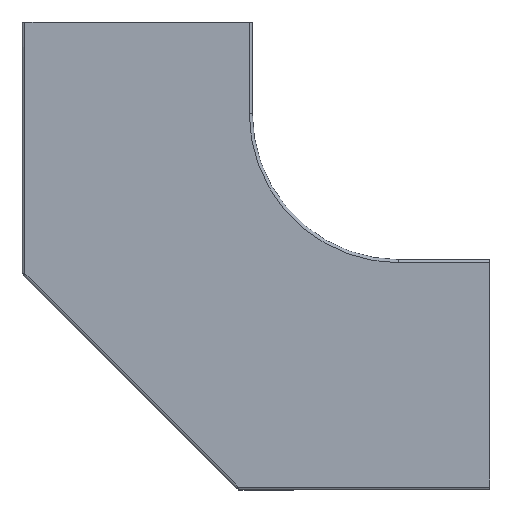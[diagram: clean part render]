
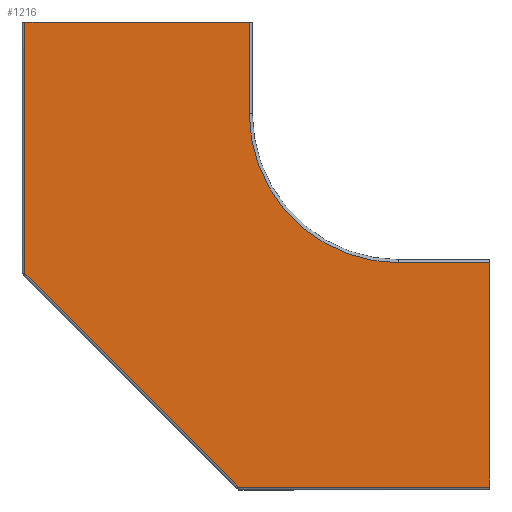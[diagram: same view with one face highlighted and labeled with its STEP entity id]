
A CAD part, front view. The second image highlights one B-rep face of the part: STEP entity #1216.
In plain terms, the highlighted planar face has unit normal (0, -1, 0).
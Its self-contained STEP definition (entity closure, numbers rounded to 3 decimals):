
#92 = LINE ( 'NONE', #914, #3162 ) ;
#125 = CARTESIAN_POINT ( 'NONE',  ( 143., 0., -311. ) ) ;
#265 = LINE ( 'NONE', #3554, #3762 ) ;
#394 = CARTESIAN_POINT ( 'NONE',  ( 250., 0., -161. ) ) ;
#589 = EDGE_CURVE ( 'NONE', #1027, #1272, #842, .T. ) ;
#600 = ORIENTED_EDGE ( 'NONE', *, *, #2892, .F. ) ;
#616 = DIRECTION ( 'NONE',  ( 0., -1., 0. ) ) ;
#736 = LINE ( 'NONE', #4009, #1308 ) ;
#749 = DIRECTION ( 'NONE',  ( 0., 0., -1. ) ) ;
#842 = LINE ( 'NONE', #2911, #5236 ) ;
#852 = LINE ( 'NONE', #2821, #4393 ) ;
#914 = CARTESIAN_POINT ( 'NONE',  ( 250., 0., -161. ) ) ;
#1027 = VERTEX_POINT ( 'NONE', #4639 ) ;
#1051 = CARTESIAN_POINT ( 'NONE',  ( 311., 0., -311. ) ) ;
#1079 = DIRECTION ( 'NONE',  ( 0., -1., 0. ) ) ;
#1173 = CIRCLE ( 'NONE', #1854, 100. ) ;
#1216 = ADVANCED_FACE ( 'NONE', ( #1516 ), #1565, .T. ) ;
#1272 = VERTEX_POINT ( 'NONE', #1051 ) ;
#1293 = DIRECTION ( 'NONE',  ( 0., 0., -1. ) ) ;
#1308 = VECTOR ( 'NONE', #2402, 1000. ) ;
#1401 = EDGE_CURVE ( 'NONE', #2865, #3107, #852, .T. ) ;
#1417 = AXIS2_PLACEMENT_3D ( 'NONE', #2678, #616, #3131 ) ;
#1516 = FACE_OUTER_BOUND ( 'NONE', #4044, .T. ) ;
#1565 = PLANE ( 'NONE',  #1417 ) ;
#1593 = CARTESIAN_POINT ( 'NONE',  ( 0., 0., -168. ) ) ;
#1678 = VECTOR ( 'NONE', #4772, 1000. ) ;
#1706 = CARTESIAN_POINT ( 'NONE',  ( 150., 0., 0. ) ) ;
#1854 = AXIS2_PLACEMENT_3D ( 'NONE', #3911, #1079, #4325 ) ;
#2101 = VERTEX_POINT ( 'NONE', #3946 ) ;
#2189 = EDGE_CURVE ( 'NONE', #3107, #5090, #1173, .T. ) ;
#2368 = CARTESIAN_POINT ( 'NONE',  ( 150., 0., -61. ) ) ;
#2402 = DIRECTION ( 'NONE',  ( 0., 0., 1. ) ) ;
#2434 = CARTESIAN_POINT ( 'NONE',  ( 143., 0., -311. ) ) ;
#2678 = CARTESIAN_POINT ( 'NONE',  ( 250., 0., -61. ) ) ;
#2687 = ORIENTED_EDGE ( 'NONE', *, *, #3857, .F. ) ;
#2821 = CARTESIAN_POINT ( 'NONE',  ( 150., 0., 0. ) ) ;
#2865 = VERTEX_POINT ( 'NONE', #1706 ) ;
#2892 = EDGE_CURVE ( 'NONE', #1272, #4741, #5023, .T. ) ;
#2905 = DIRECTION ( 'NONE',  ( -0.707, 0., 0.707 ) ) ;
#2911 = CARTESIAN_POINT ( 'NONE',  ( 311., 0., -161. ) ) ;
#3107 = VERTEX_POINT ( 'NONE', #2368 ) ;
#3131 = DIRECTION ( 'NONE',  ( 0., 0., -1. ) ) ;
#3162 = VECTOR ( 'NONE', #4439, 1000. ) ;
#3441 = ORIENTED_EDGE ( 'NONE', *, *, #589, .F. ) ;
#3526 = DIRECTION ( 'NONE',  ( 1., 0., 0. ) ) ;
#3554 = CARTESIAN_POINT ( 'NONE',  ( 0., 0., 0. ) ) ;
#3645 = LINE ( 'NONE', #1593, #4378 ) ;
#3762 = VECTOR ( 'NONE', #3526, 1000. ) ;
#3857 = EDGE_CURVE ( 'NONE', #3931, #2101, #736, .T. ) ;
#3882 = ORIENTED_EDGE ( 'NONE', *, *, #1401, .F. ) ;
#3911 = CARTESIAN_POINT ( 'NONE',  ( 250., 0., -61. ) ) ;
#3931 = VERTEX_POINT ( 'NONE', #4064 ) ;
#3946 = CARTESIAN_POINT ( 'NONE',  ( 0., 0., 0. ) ) ;
#4009 = CARTESIAN_POINT ( 'NONE',  ( 0., 0., 0. ) ) ;
#4044 = EDGE_LOOP ( 'NONE', ( #2687, #4682, #600, #3441, #4554, #5096, #3882, #4269 ) ) ;
#4064 = CARTESIAN_POINT ( 'NONE',  ( 0., 0., -168. ) ) ;
#4244 = EDGE_CURVE ( 'NONE', #5090, #1027, #92, .T. ) ;
#4269 = ORIENTED_EDGE ( 'NONE', *, *, #4549, .F. ) ;
#4325 = DIRECTION ( 'NONE',  ( 0., 0., -1. ) ) ;
#4378 = VECTOR ( 'NONE', #2905, 1000. ) ;
#4393 = VECTOR ( 'NONE', #749, 1000. ) ;
#4397 = EDGE_CURVE ( 'NONE', #4741, #3931, #3645, .T. ) ;
#4439 = DIRECTION ( 'NONE',  ( 1., 0., 0. ) ) ;
#4549 = EDGE_CURVE ( 'NONE', #2101, #2865, #265, .T. ) ;
#4554 = ORIENTED_EDGE ( 'NONE', *, *, #4244, .F. ) ;
#4639 = CARTESIAN_POINT ( 'NONE',  ( 311., 0., -161. ) ) ;
#4682 = ORIENTED_EDGE ( 'NONE', *, *, #4397, .F. ) ;
#4741 = VERTEX_POINT ( 'NONE', #2434 ) ;
#4772 = DIRECTION ( 'NONE',  ( -1., 0., 0. ) ) ;
#5023 = LINE ( 'NONE', #125, #1678 ) ;
#5090 = VERTEX_POINT ( 'NONE', #394 ) ;
#5096 = ORIENTED_EDGE ( 'NONE', *, *, #2189, .F. ) ;
#5236 = VECTOR ( 'NONE', #1293, 1000. ) ;
